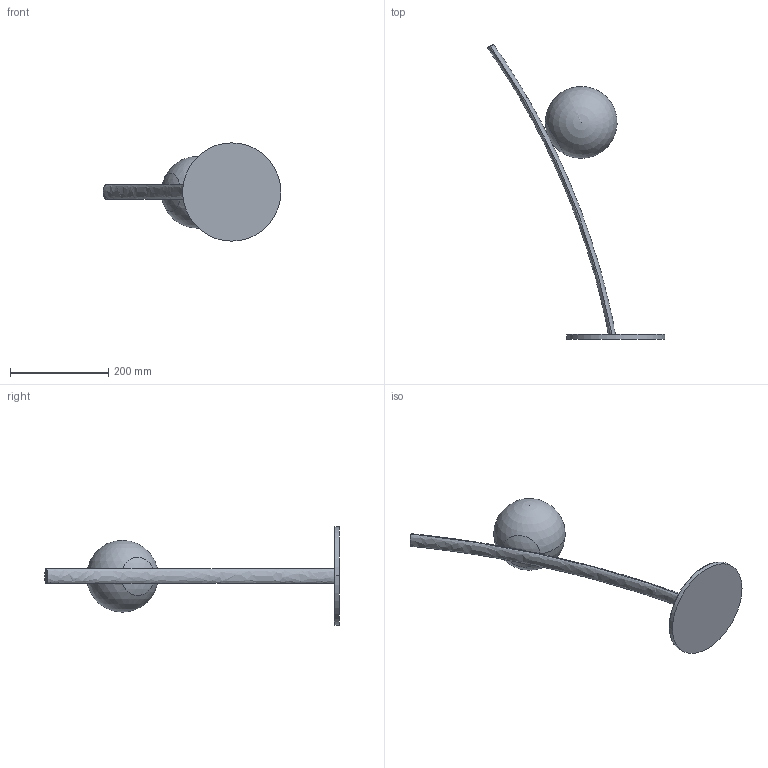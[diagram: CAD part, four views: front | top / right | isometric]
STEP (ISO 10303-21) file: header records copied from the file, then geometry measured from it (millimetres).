
FILE_DESCRIPTION (( 'STEP AP203' ), '1' );
FILE_NAME ('VIDL2_Vida.STEP', '2024-08-06T08:34:22', ( '' ), ( '' ), 'SwSTEP 2.0', 'SolidWorks 2022', '' );
FILE_SCHEMA (( 'CONFIG_CONTROL_DESIGN' ));
Length unit declared in the file: millimetre
Products named in the file (1): VIDL2_Vida
Bounding box: 361.72 x 599.93 x 200 mm (x, y, z)
Volume: 2169397.5 mm3; surface area: 183044.3 mm2
Topology: 3 solids, 3 shells, 14 faces, 27 edges, 17 vertices
Faces by surface type: sphere 4, plane 4, cylinder 2, torus 2, bspline 2
Entity records: 1250 total; most frequent: CARTESIAN_POINT 933, DIRECTION 52, ORIENTED_EDGE 44, AXIS2_PLACEMENT_3D 25, EDGE_CURVE 22, FACE_OUTER_BOUND 14, EDGE_LOOP 14, ADVANCED_FACE 14
